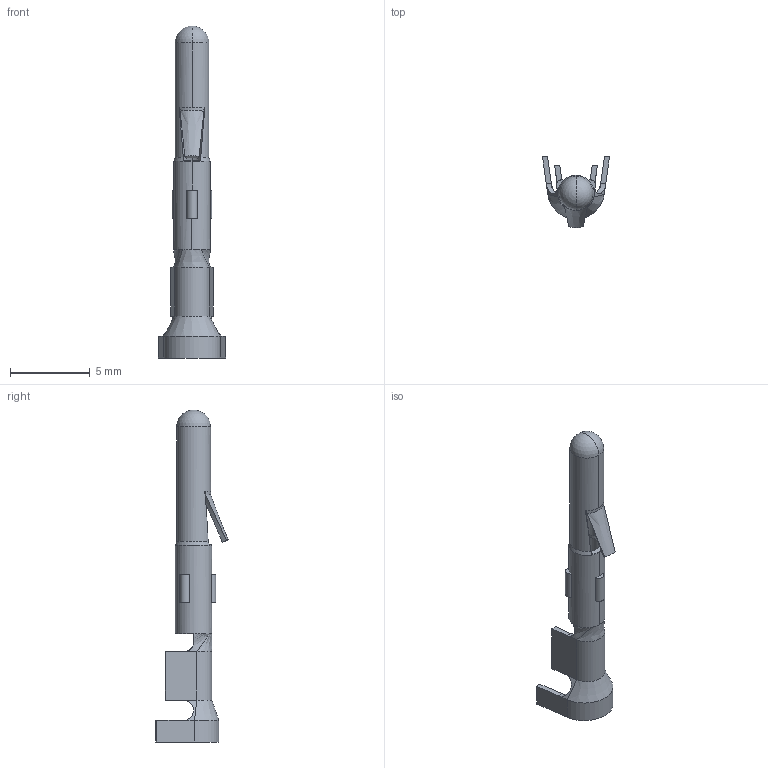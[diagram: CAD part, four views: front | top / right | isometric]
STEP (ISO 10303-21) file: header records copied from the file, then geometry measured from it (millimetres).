
FILE_DESCRIPTION((''),'2;1');
FILE_NAME('C-163301-6','2008-01-02T',('workeradm'),('Tyco Electronics Corporation'),'PRO/ENGINEER BY PARAMETRIC TECHNOLOGY CORPORATION, 2005450','PRO/ENGINEER BY PARAMETRIC TECHNOLOGY CORPORATION, 2005450','');
FILE_SCHEMA(('CONFIG_CONTROL_DESIGN', 'GEOMETRIC_VALIDATION_PROPERTIES_MIM'));
Length unit declared in the file: millimetre
Products named in the file (1): C-163301-6
Bounding box: 4.19 x 4.51 x 20.75 mm (x, y, z)
Volume: 39.6 mm3; surface area: 263.7 mm2
Topology: 1 solids, 1 shells, 81 faces, 207 edges, 124 vertices
Faces by surface type: plane 32, bspline 22, cylinder 19, cone 4, sphere 4
Entity records: 3223 total; most frequent: CARTESIAN_POINT 1262, ORIENTED_EDGE 406, DIRECTION 341, EDGE_CURVE 203, VERTEX_POINT 124, AXIS2_PLACEMENT_3D 121, VECTOR 99, LINE 99
